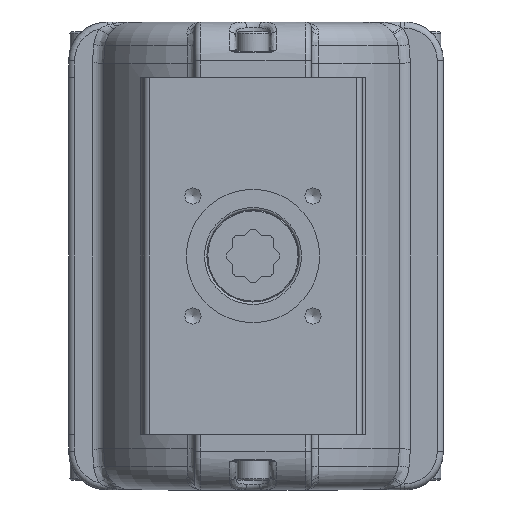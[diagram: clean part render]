
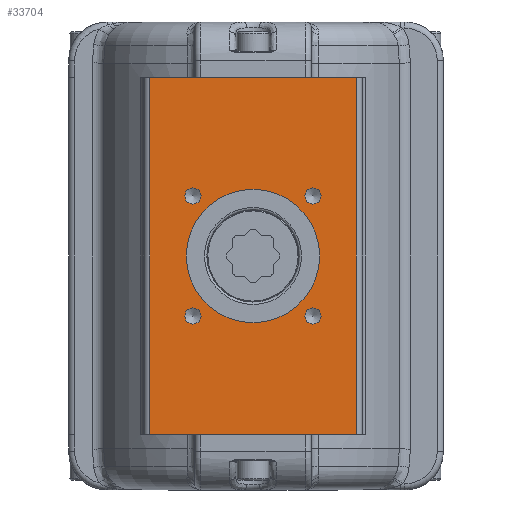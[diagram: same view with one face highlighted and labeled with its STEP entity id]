
A CAD part, front view. The second image highlights one B-rep face of the part: STEP entity #33704.
In plain terms, the highlighted planar face has unit normal (0, -1, 0).
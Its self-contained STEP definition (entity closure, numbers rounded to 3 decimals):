
#16760=CARTESIAN_POINT('',(42.5,-83.0,-73.5));
#16761=VERTEX_POINT('',#16760);
#16769=CARTESIAN_POINT('',(-42.5,-83.0,-73.5));
#16770=VERTEX_POINT('',#16769);
#16771=CARTESIAN_POINT('',(-42.5,-83.0,-73.5));
#16772=DIRECTION('',(1.0,0.0,0.0));
#16773=VECTOR('',#16772,85.0);
#16774=LINE('',#16771,#16773);
#16775=EDGE_CURVE('',#16770,#16761,#16774,.T.);
#32091=CARTESIAN_POINT('',(-42.5,-83.0,73.5));
#32092=VERTEX_POINT('',#32091);
#32100=CARTESIAN_POINT('',(42.5,-83.0,73.5));
#32101=VERTEX_POINT('',#32100);
#32102=CARTESIAN_POINT('',(42.5,-83.0,73.5));
#32103=DIRECTION('',(-1.0,0.0,0.0));
#32104=VECTOR('',#32103,85.0);
#32105=LINE('',#32102,#32104);
#32106=EDGE_CURVE('',#32101,#32092,#32105,.T.);
#32665=CARTESIAN_POINT('',(-21.425,-83.0,24.749));
#32666=VERTEX_POINT('',#32665);
#32667=CARTESIAN_POINT('',(-24.749,-83.0,24.749));
#32668=DIRECTION('',(0.0,1.0,0.0));
#32669=DIRECTION('',(1.0,0.0,0.0));
#32670=AXIS2_PLACEMENT_3D('',#32667,#32668,#32669);
#32671=CIRCLE('',#32670,3.324);
#32672=EDGE_CURVE('',#32666,#32666,#32671,.T.);
#32744=CARTESIAN_POINT('',(28.072,-83.0,-24.749));
#32745=VERTEX_POINT('',#32744);
#32746=CARTESIAN_POINT('',(24.749,-83.0,-24.749));
#32747=DIRECTION('',(0.0,1.0,0.0));
#32748=DIRECTION('',(1.0,0.0,0.0));
#32749=AXIS2_PLACEMENT_3D('',#32746,#32747,#32748);
#32750=CIRCLE('',#32749,3.324);
#32751=EDGE_CURVE('',#32745,#32745,#32750,.T.);
#32823=CARTESIAN_POINT('',(-21.425,-83.0,-24.749));
#32824=VERTEX_POINT('',#32823);
#32825=CARTESIAN_POINT('',(-24.749,-83.0,-24.749));
#32826=DIRECTION('',(0.0,1.0,0.0));
#32827=DIRECTION('',(1.0,0.0,0.0));
#32828=AXIS2_PLACEMENT_3D('',#32825,#32826,#32827);
#32829=CIRCLE('',#32828,3.324);
#32830=EDGE_CURVE('',#32824,#32824,#32829,.T.);
#32902=CARTESIAN_POINT('',(28.072,-83.0,24.749));
#32903=VERTEX_POINT('',#32902);
#32904=CARTESIAN_POINT('',(24.749,-83.0,24.749));
#32905=DIRECTION('',(0.0,1.0,0.0));
#32906=DIRECTION('',(1.0,0.0,0.0));
#32907=AXIS2_PLACEMENT_3D('',#32904,#32905,#32906);
#32908=CIRCLE('',#32907,3.324);
#32909=EDGE_CURVE('',#32903,#32903,#32908,.T.);
#32922=CARTESIAN_POINT('',(0.0,-83.0,27.5));
#32923=VERTEX_POINT('',#32922);
#32924=CARTESIAN_POINT('',(0.0,-83.0,0.0));
#32925=DIRECTION('',(0.0,1.0,0.0));
#32926=DIRECTION('',(0.0,0.0,1.0));
#32927=AXIS2_PLACEMENT_3D('',#32924,#32925,#32926);
#32928=CIRCLE('',#32927,27.5);
#32929=EDGE_CURVE('',#32923,#32923,#32928,.T.);
#33657=CARTESIAN_POINT('',(42.5,-83.0,73.5));
#33658=DIRECTION('',(0.0,0.0,-1.0));
#33659=VECTOR('',#33658,147.0);
#33660=LINE('',#33657,#33659);
#33661=EDGE_CURVE('',#32101,#16761,#33660,.T.);
#33673=CARTESIAN_POINT('',(45.0,-83.0,0.0));
#33674=DIRECTION('',(0.0,-1.0,0.0));
#33675=DIRECTION('',(0.0,0.0,-1.0));
#33676=AXIS2_PLACEMENT_3D('',#33673,#33674,#33675);
#33677=PLANE('',#33676);
#33678=ORIENTED_EDGE('',*,*,#33661,.F.);
#33679=ORIENTED_EDGE('',*,*,#32106,.T.);
#33680=CARTESIAN_POINT('',(-42.5,-83.0,-73.5));
#33681=DIRECTION('',(0.0,0.0,1.0));
#33682=VECTOR('',#33681,147.0);
#33683=LINE('',#33680,#33682);
#33684=EDGE_CURVE('',#16770,#32092,#33683,.T.);
#33685=ORIENTED_EDGE('',*,*,#33684,.F.);
#33686=ORIENTED_EDGE('',*,*,#16775,.T.);
#33687=EDGE_LOOP('',(#33678,#33679,#33685,#33686));
#33688=FACE_OUTER_BOUND('',#33687,.T.);
#33689=ORIENTED_EDGE('',*,*,#32672,.T.);
#33690=EDGE_LOOP('',(#33689));
#33691=FACE_BOUND('',#33690,.T.);
#33692=ORIENTED_EDGE('',*,*,#32751,.T.);
#33693=EDGE_LOOP('',(#33692));
#33694=FACE_BOUND('',#33693,.T.);
#33695=ORIENTED_EDGE('',*,*,#32830,.T.);
#33696=EDGE_LOOP('',(#33695));
#33697=FACE_BOUND('',#33696,.T.);
#33698=ORIENTED_EDGE('',*,*,#32909,.T.);
#33699=EDGE_LOOP('',(#33698));
#33700=FACE_BOUND('',#33699,.T.);
#33701=ORIENTED_EDGE('',*,*,#32929,.T.);
#33702=EDGE_LOOP('',(#33701));
#33703=FACE_BOUND('',#33702,.T.);
#33704=ADVANCED_FACE('',(#33688,#33691,#33694,#33697,#33700,#33703),#33677,.T.);
